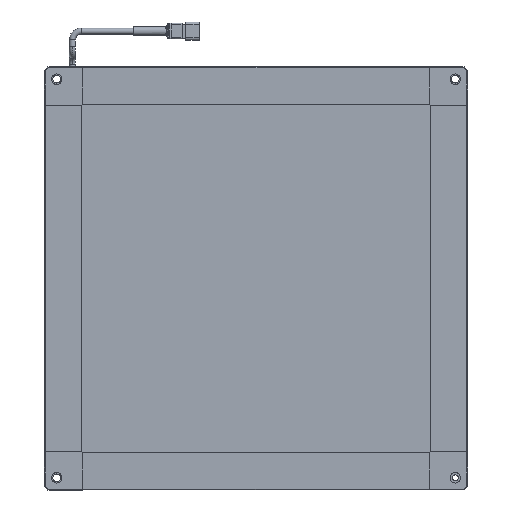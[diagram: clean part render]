
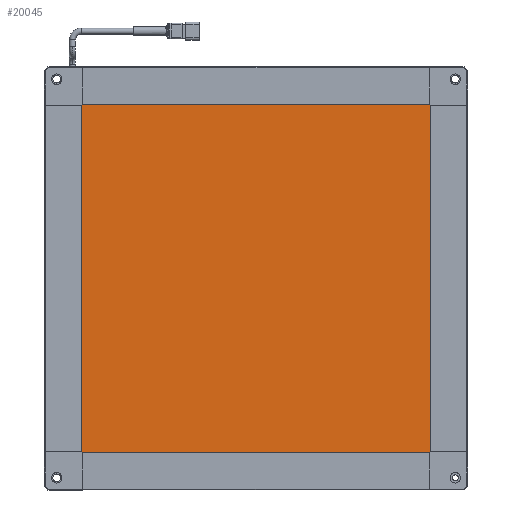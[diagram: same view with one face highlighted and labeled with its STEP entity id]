
A CAD part, front view. The second image highlights one B-rep face of the part: STEP entity #20045.
In plain terms, the highlighted planar face has unit normal (0, -1, 0).
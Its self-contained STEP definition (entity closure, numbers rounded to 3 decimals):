
#334 = ORIENTED_EDGE ( 'NONE', *, *, #4238, .T. ) ;
#1178 = VECTOR ( 'NONE', #18260, 1000. ) ;
#1457 = DIRECTION ( 'NONE',  ( 0., 0., -1. ) ) ;
#2194 = CARTESIAN_POINT ( 'NONE',  ( 103., -2.5, 103. ) ) ;
#2596 = LINE ( 'NONE', #13912, #2835 ) ;
#2835 = VECTOR ( 'NONE', #20365, 1000. ) ;
#3323 = AXIS2_PLACEMENT_3D ( 'NONE', #19141, #6244, #20923 ) ;
#3408 = EDGE_CURVE ( 'NONE', #5895, #17549, #9541, .T. ) ;
#4238 = EDGE_CURVE ( 'NONE', #19442, #12879, #11556, .T. ) ;
#4598 = CARTESIAN_POINT ( 'NONE',  ( 103., -2.5, 103. ) ) ;
#5791 = FACE_OUTER_BOUND ( 'NONE', #7096, .T. ) ;
#5895 = VERTEX_POINT ( 'NONE', #18080 ) ;
#6244 = DIRECTION ( 'NONE',  ( 0., 1., 0. ) ) ;
#6923 = EDGE_CURVE ( 'NONE', #17549, #19442, #2596, .T. ) ;
#7096 = EDGE_LOOP ( 'NONE', ( #10071, #13744, #334, #18191 ) ) ;
#8017 = CARTESIAN_POINT ( 'NONE',  ( -103., -2.5, 103. ) ) ;
#9541 = LINE ( 'NONE', #8017, #18919 ) ;
#10071 = ORIENTED_EDGE ( 'NONE', *, *, #3408, .T. ) ;
#11094 = CARTESIAN_POINT ( 'NONE',  ( -103., -2.5, -103. ) ) ;
#11184 = VECTOR ( 'NONE', #20833, 1000. ) ;
#11556 = LINE ( 'NONE', #2194, #1178 ) ;
#12237 = EDGE_CURVE ( 'NONE', #12879, #5895, #16253, .T. ) ;
#12879 = VERTEX_POINT ( 'NONE', #17671 ) ;
#13026 = CARTESIAN_POINT ( 'NONE',  ( 103., -2.5, -103. ) ) ;
#13744 = ORIENTED_EDGE ( 'NONE', *, *, #6923, .T. ) ;
#13912 = CARTESIAN_POINT ( 'NONE',  ( 103., -2.5, -103. ) ) ;
#15842 = PLANE ( 'NONE',  #3323 ) ;
#16253 = LINE ( 'NONE', #4598, #11184 ) ;
#17549 = VERTEX_POINT ( 'NONE', #11094 ) ;
#17671 = CARTESIAN_POINT ( 'NONE',  ( 103., -2.5, 103. ) ) ;
#18080 = CARTESIAN_POINT ( 'NONE',  ( -103., -2.5, 103. ) ) ;
#18191 = ORIENTED_EDGE ( 'NONE', *, *, #12237, .T. ) ;
#18260 = DIRECTION ( 'NONE',  ( 0., 0., 1. ) ) ;
#18919 = VECTOR ( 'NONE', #1457, 1000. ) ;
#19141 = CARTESIAN_POINT ( 'NONE',  ( -103., -2.5, -103. ) ) ;
#19442 = VERTEX_POINT ( 'NONE', #13026 ) ;
#20045 = ADVANCED_FACE ( 'NONE', ( #5791 ), #15842, .F. ) ;
#20365 = DIRECTION ( 'NONE',  ( 1., 0., 0. ) ) ;
#20833 = DIRECTION ( 'NONE',  ( -1., 0., 0. ) ) ;
#20923 = DIRECTION ( 'NONE',  ( -1., 0., 0. ) ) ;
